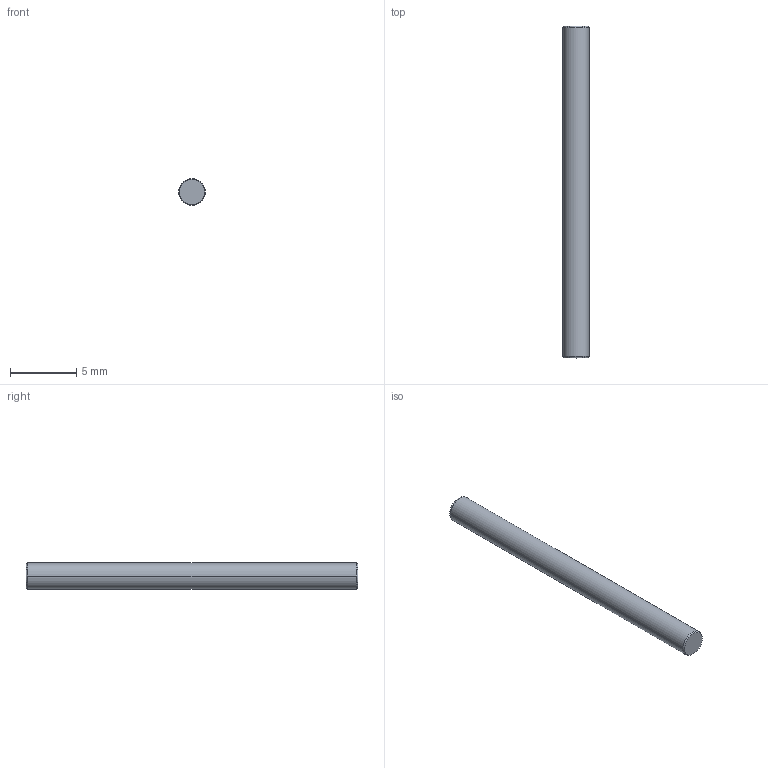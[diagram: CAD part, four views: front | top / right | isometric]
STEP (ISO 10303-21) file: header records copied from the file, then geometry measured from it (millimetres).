
FILE_DESCRIPTION((''),'2;1');
FILE_NAME('PIN','2024-02-21T17:17:08',('qinghui.yi'),(''),'CREO PARAMETRIC BY PTC INC, 2019164','CREO PARAMETRIC BY PTC INC, 2019164','');
FILE_SCHEMA(('CONFIG_CONTROL_DESIGN','SHAPE_APPEARANCE_LAYERS_GROUPS'));
Length unit declared in the file: millimetre
Products named in the file (1): PIN
Bounding box: 2 x 25 x 2 mm (x, y, z)
Volume: 78.5 mm3; surface area: 162.7 mm2
Topology: 1 solids, 1 shells, 8 faces, 17 edges, 14 vertices
Faces by surface type: cone 4, plane 2, cylinder 2
Entity records: 593 total; most frequent: COLOUR_RGB 312, DIRECTION 43, CARTESIAN_POINT 34, ORIENTED_EDGE 28, AXIS2_PLACEMENT_3D 17, EDGE_CURVE 14, VECTOR 9, LINE 9
